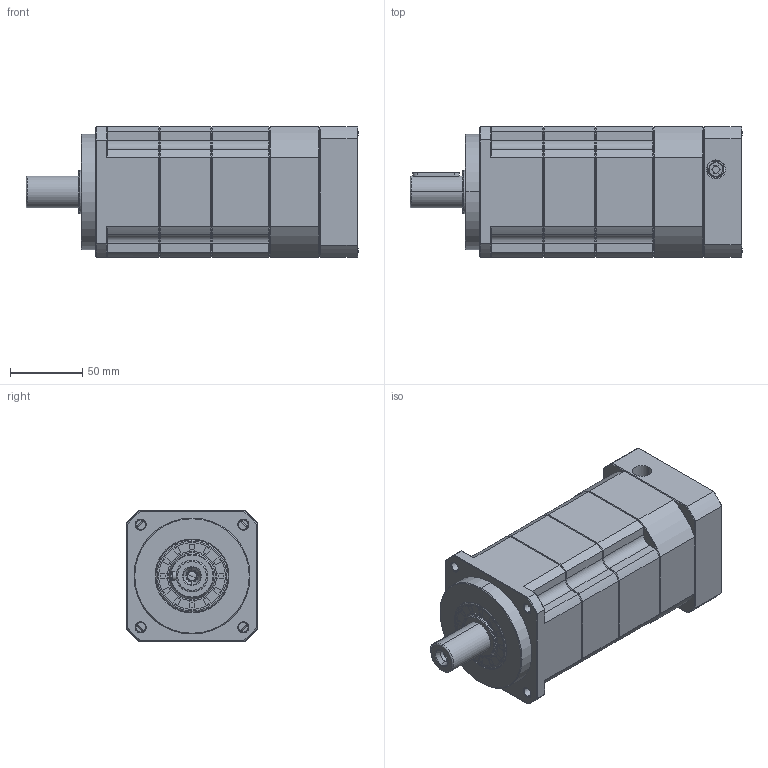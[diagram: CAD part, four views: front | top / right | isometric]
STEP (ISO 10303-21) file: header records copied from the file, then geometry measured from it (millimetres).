
FILE_DESCRIPTION (( 'STEP AP214' ), '1' );
FILE_NAME ('ZPB090-D22-L3-P1-19-80-100-M6.step', '2024-06-07T18:23:10', ( 'Windows 蚚誧' ), ( 'Organization' ), 'SwSTEP 2.0', 'SolidWorks 2016', '' );
FILE_SCHEMA (( 'AUTOMOTIVE_DESIGN' ));
Length unit declared in the file: millimetre
Products named in the file (1): ZPB090-D22-L3-P1-19-80-100-M6
Bounding box: 229 x 90 x 90 mm (x, y, z)
Surface area: 102936.8 mm2 (no closed solid volume)
Topology: 0 solids, 34 shells, 1967 faces, 5179 edges, 3265 vertices
Faces by surface type: plane 1008, bspline 388, cone 315, cylinder 254, torus 2
Full cylindrical faces by diameter (mm): 6.72 x4
Entity records: 98583 total; most frequent: CARTESIAN_POINT 48762, ORIENTED_EDGE 10213, DIRECTION 7999, EDGE_CURVE 5127, VECTOR 3349, LINE 3349, VERTEX_POINT 3234, AXIS2_PLACEMENT_3D 2325
